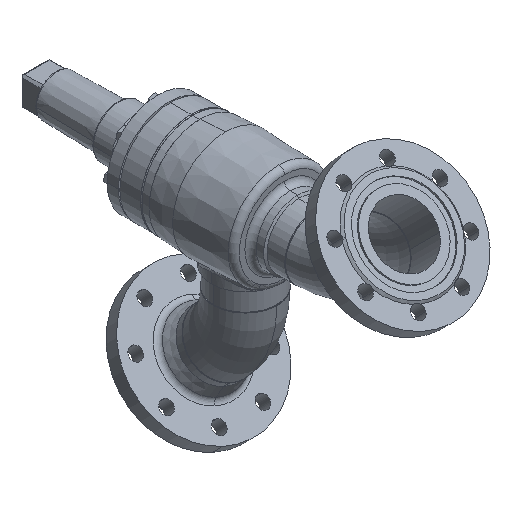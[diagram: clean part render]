
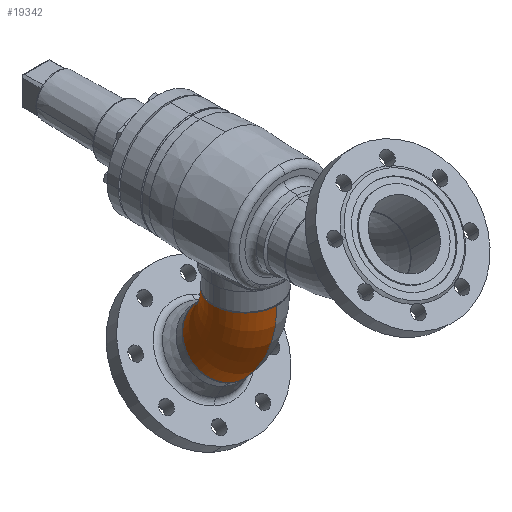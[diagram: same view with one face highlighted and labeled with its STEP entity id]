
A CAD part, isometric view. The second image highlights one B-rep face of the part: STEP entity #19342.
In plain terms, the highlighted toroidal (fillet/blend) face has major radius 114 mm and minor radius 44.45 mm.
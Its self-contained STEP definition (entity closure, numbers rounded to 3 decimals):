
#73 = CARTESIAN_POINT ( 'NONE',  ( 49.179, -64.821, 0. ) ) ;
#370 = CARTESIAN_POINT ( 'NONE',  ( 112.041, -1.959, 0. ) ) ;
#592 = CIRCLE ( 'NONE', #593, 44.45 ) ;
#593 = AXIS2_PLACEMENT_3D ( 'NONE', #594, #595, #596 ) ;
#594 = CARTESIAN_POINT ( 'NONE',  ( 80.61, -33.39, 0. ) ) ;
#595 = DIRECTION ( 'NONE',  ( 0.707, -0.707, 0. ) ) ;
#596 = DIRECTION ( 'NONE',  ( 0., 0., -1. ) ) ;
#18735 = ORIENTED_EDGE ( 'NONE', *, *, #20836, .F. ) ;
#18796 = CIRCLE ( 'NONE', #18797, 158.45 ) ;
#18797 = AXIS2_PLACEMENT_3D ( 'NONE', #18798, #18799, #18800 ) ;
#18798 = CARTESIAN_POINT ( 'NONE',  ( 0., -114., 0. ) ) ;
#18799 = DIRECTION ( 'NONE',  ( 0., 0., 1. ) ) ;
#18800 = DIRECTION ( 'NONE',  ( 1., 0., 0. ) ) ;
#19091 = EDGE_LOOP ( 'NONE', ( #18735, #20030, #7819, #6368 ) ) ;
#19342 = ADVANCED_FACE ( 'NONE', ( #20390 ), #20391, .T. ) ;
#20030 = ORIENTED_EDGE ( 'NONE', *, *, #8568, .T. ) ;
#20381 = VERTEX_POINT ( 'NONE', #73 ) ;
#20390 = FACE_OUTER_BOUND ( 'NONE', #19091, .T. ) ;
#20391 = TOROIDAL_SURFACE ( 'NONE', #20392, 114., 44.45 ) ;
#20392 = AXIS2_PLACEMENT_3D ( 'NONE', #20393, #20394, #20395 ) ;
#20393 = CARTESIAN_POINT ( 'NONE',  ( 0., -114., 0. ) ) ;
#20394 = DIRECTION ( 'NONE',  ( 0., 0., 1. ) ) ;
#20395 = DIRECTION ( 'NONE',  ( 1., 0., 0. ) ) ;
#20619 = VERTEX_POINT ( 'NONE', #370 ) ;
#20836 = EDGE_CURVE ( 'NONE', #20619, #20381, #592, .T. ) ;
#5673 = EDGE_CURVE ( 'NONE', #20381, #7234, #11976, .T. ) ;
#6368 = ORIENTED_EDGE ( 'NONE', *, *, #5673, .F. ) ;
#7234 = VERTEX_POINT ( 'NONE', #14866 ) ;
#7459 = EDGE_CURVE ( 'NONE', #8346, #7234, #15063, .T. ) ;
#7819 = ORIENTED_EDGE ( 'NONE', *, *, #7459, .T. ) ;
#8346 = VERTEX_POINT ( 'NONE', #15600 ) ;
#8568 = EDGE_CURVE ( 'NONE', #20619, #8346, #18796, .T. ) ;
#11976 = CIRCLE ( 'NONE', #11977, 69.55 ) ;
#11977 = AXIS2_PLACEMENT_3D ( 'NONE', #11978, #11979, #11980 ) ;
#11978 = CARTESIAN_POINT ( 'NONE',  ( 0., -114., 0. ) ) ;
#11979 = DIRECTION ( 'NONE',  ( 0., 0., 1. ) ) ;
#11980 = DIRECTION ( 'NONE',  ( 1., 0., 0. ) ) ;
#14866 = CARTESIAN_POINT ( 'NONE',  ( 0., -44.45, 0. ) ) ;
#15063 = CIRCLE ( 'NONE', #15064, 44.45 ) ;
#15064 = AXIS2_PLACEMENT_3D ( 'NONE', #15065, #15066, #15067 ) ;
#15065 = CARTESIAN_POINT ( 'NONE',  ( 0., 0., 0. ) ) ;
#15066 = DIRECTION ( 'NONE',  ( 1., 0., 0. ) ) ;
#15067 = DIRECTION ( 'NONE',  ( 0., 0., -1. ) ) ;
#15600 = CARTESIAN_POINT ( 'NONE',  ( 0., 44.45, 0. ) ) ;
